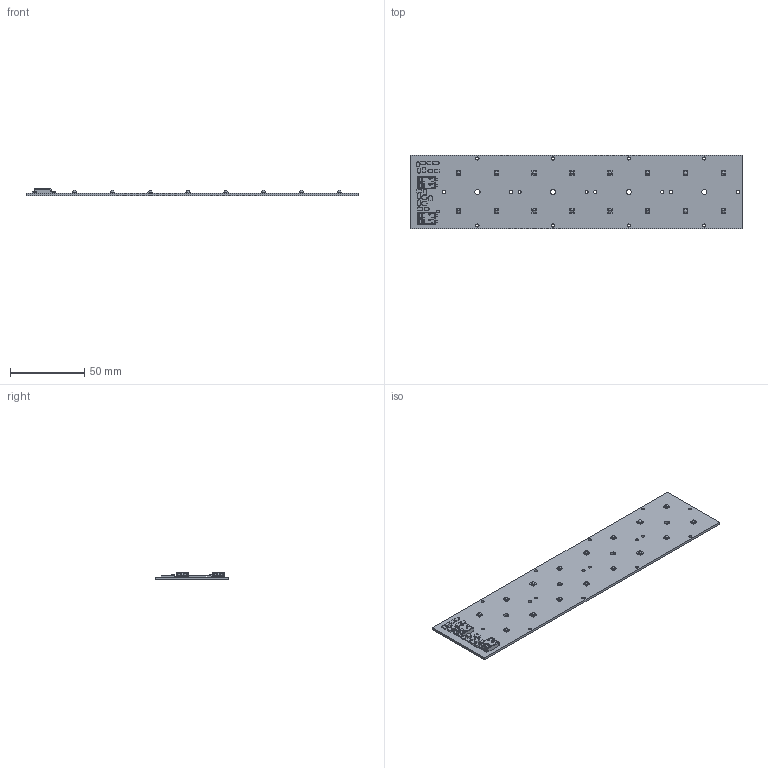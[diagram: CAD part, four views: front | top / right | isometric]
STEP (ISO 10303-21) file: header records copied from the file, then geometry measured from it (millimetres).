
FILE_DESCRIPTION((''),'2;1');
FILE_NAME('RLE_2X8','2016-04-18T',('bernhard.fink'),(''),'PRO/ENGINEER BY PARAMETRIC TECHNOLOGY CORPORATION, 2015200','PRO/ENGINEER BY PARAMETRIC TECHNOLOGY CORPORATION, 2015200','');
FILE_SCHEMA(('AUTOMOTIVE_DESIGN { 1 0 10303 214 1 1 1 1 }'));
Length unit declared in the file: millimetre
Products named in the file (3): S146C_MODUL; ET_MICROCON_SMD_2POL; RLE_2X8
Assembly tree (3 placements, depth 2):
  RLE_2X8
    S146C_MODUL
    ET_MICROCON_SMD_2POL  x2
Bounding box: 223 x 49.5 x 5.1 mm (x, y, z)
Volume: 18852.8 mm3; surface area: 24506.3 mm2
Topology: 19 solids, 19 shells, 1312 faces, 3430 edges, 2134 vertices
Faces by surface type: plane 702, cylinder 276, bspline 200, cone 60, sphere 50, torus 24
Entity records: 42073 total; most frequent: CARTESIAN_POINT 8883, ORIENTED_EDGE 4596, DIRECTION 3946, PRESENTATION_STYLE_ASSIGNMENT 2841, STYLED_ITEM 2322, CURVE_STYLE 2298, EDGE_CURVE 2298, VECTOR 1620
